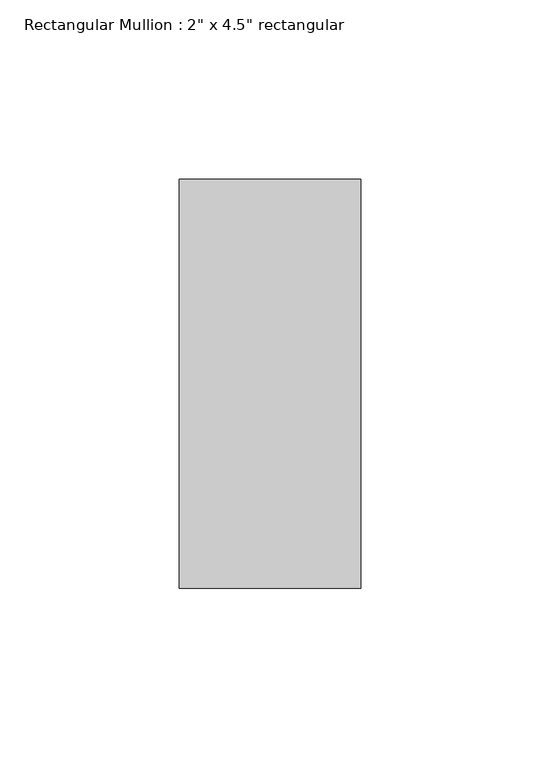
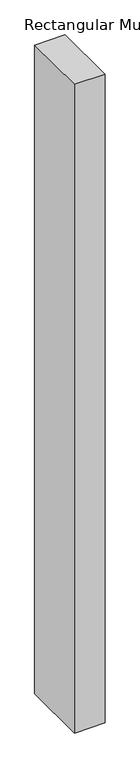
"""IFC4 building model written with IfcOpenShell, lengths in millimetres: member geometry."""

from ifc_helpers import new_model, si_unit, frame, origin, place, context, project, spatial, polyline, outline, extrude, source, transform, mapped, element, save


def member_dd9f6d43(model_context):
    return source(origin(), model_context, "Body", "SweptSolid", [
        extrude(outline(polyline([(0.0, 57.15), (0.0, -57.15), (-50.8, -57.15), (-50.8, 57.15), (0.0, 57.15)])), frame((0.0, 0.0, -1140.0036726), z_axis=(0.0, 0.0, 1.0), x_axis=(1.0, 0.0, 0.0)), (0.0, 0.0, 1.0), 1140.0036726),
    ])


if __name__ == "__main__":
    model = new_model("IFC4")
    model_context = context("Model", 3, world=origin())
    ifc_project = project(units=[si_unit("LENGTHUNIT", "METRE", prefix="MILLI")], contexts=[model_context])
    site = spatial("IfcSite", under=ifc_project)
    building = spatial("IfcBuilding", under=site)
    placement = place(None, origin())
    member_shape = member_dd9f6d43(model_context)
    element("IfcMember", 1, ObjectType="Rectangular Mullion : 2\" x 4.5\" rectangular", at=placement, inside=building, context=model_context, shape_type="MappedRepresentation", body=[
        mapped(member_shape, transform((0.0, 0.0, 0.0), x_axis=(1.0, 0.0, 0.0), y_axis=(0.0, 1.0, 0.0), z_axis=(0.0, 0.0, 1.0))),
    ])
    save(model, "model.ifc")
